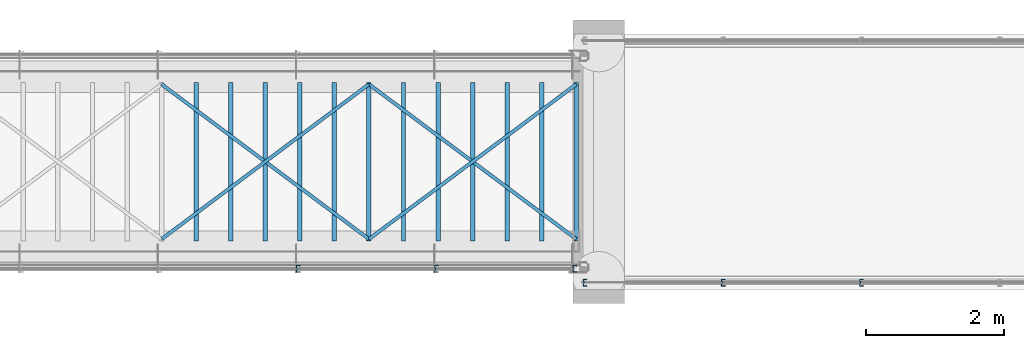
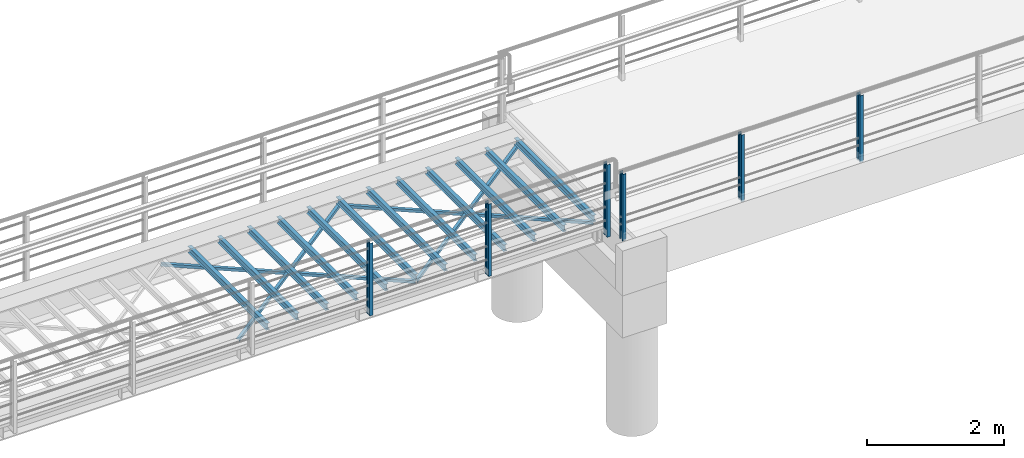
# One storey, part 12 of 31: 22 beams.
"""IFC2X3 building model written with IfcOpenShell, lengths in millimetres."""

from ifc_helpers import new_model, si_unit, frame, origin_with_axes, place, context, subcontext, project, spatial, faceted_brep, material, type_object, element, save


model = new_model("IFC2X3")

# Units and contexts
model_context = context("Model", 3, precision=1e-05, world=origin_with_axes())
body_context = subcontext(model_context, "Body", "Model", "MODEL_VIEW")
ifc_project = project(units=[si_unit("LENGTHUNIT", "METRE", prefix="MILLI"), si_unit("AREAUNIT", "SQUARE_METRE"), si_unit("VOLUMEUNIT", "CUBIC_METRE"), si_unit("MASSUNIT", "GRAM", prefix="KILO"), si_unit("TIMEUNIT", "SECOND"), si_unit("PLANEANGLEUNIT", "RADIAN"), si_unit("SOLIDANGLEUNIT", "STERADIAN"), si_unit("THERMODYNAMICTEMPERATUREUNIT", "DEGREE_CELSIUS"), si_unit("LUMINOUSINTENSITYUNIT", "LUMEN")], contexts=[model_context])

# Site, building, storey
site_placement = place(None, origin_with_axes())
site = spatial("IfcSite", under=ifc_project, at=site_placement, Name="Undefined", CompositionType="ELEMENT")
building_placement = place(site_placement, origin_with_axes())
building = spatial("IfcBuilding", under=site, at=building_placement, Name="Undefined", CompositionType="ELEMENT")
storey_placement = place(building_placement, origin_with_axes())
storey = spatial("IfcBuildingStorey", under=building, at=storey_placement, Name="Undefined", CompositionType="ELEMENT", Elevation=0.0)

# Beams
ifc_material = material(Name="STEEL/S355J2+N")
beam_type_1 = type_object("IfcBeamType", Name="IPE120", PredefinedType="NOTDEFINED")
for number, where, z_axis, x_axis in (
    (1, (14950.0, 5.75, -105.0), (0.0, 0.0, 1.0), (0.0, 1.0, 0.0)),
    (2, (15950.0, 5.75, -105.0), (0.0, 0.0, 1.0), (0.0, 1.0, 0.0)),
    (3, (19450.0, 5.75, -105.0), (0.0, 0.0, 1.0), (0.0, 1.0, 0.0)),
    (4, (18950.0, 5.75, -105.0), (0.0, 0.0, 1.0), (0.0, 1.0, 0.0)),
    (5, (18450.0, 5.75, -105.0), (0.0, 0.0, 1.0), (0.0, 1.0, 0.0)),
    (6, (17950.0, 5.75, -105.0), (0.0, 0.0, 1.0), (0.0, 1.0, 0.0)),
    (7, (17450.0, 5.75, -105.0), (0.0, 0.0, 1.0), (0.0, 1.0, 0.0)),
    (8, (16950.0, 5.75, -105.0), (0.0, 0.0, 1.0), (0.0, 1.0, 0.0)),
    (9, (16450.0, 5.75, -105.0), (0.0, 0.0, 1.0), (0.0, 1.0, 0.0)),
    (10, (15450.0, 5.75, -105.0), (0.0, 0.0, 1.0), (0.0, 1.0, 0.0)),
    (11, (14450.0, 5.75, -105.0), (0.0, 0.0, 1.0), (0.0, 1.0, 0.0)),
    (12, (13950.0, 5.75, -105.0), (0.0, 0.0, 1.0), (0.0, 1.0, 0.0)),
):
    element("IfcBeam", number, at=place(storey_placement, frame(where, z_axis=z_axis, x_axis=x_axis)), inside=storey, type_object=beam_type_1, material=ifc_material, Name="STÅLBJELKE", context=body_context, shape_type="Brep", body=[
        faceted_brep([(0.0, 32.0, -60.0), (0.0, 32.0, -53.699999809), (2288.5, 32.0, -53.699999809), (2288.5, 32.0, -60.0), (0.0, 2.2000000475, -53.699999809), (2288.5, 2.2000000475, -53.699999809), (0.0, 2.2000000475, 53.699999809), (2288.5, 2.2000000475, 53.699999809), (0.0, 32.0, 53.699999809), (2288.5, 32.0, 53.699999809), (0.0, 32.0, 60.0), (2288.5, 32.0, 60.0), (0.0, -32.0, 60.0), (2288.5, -32.0, 60.0), (0.0, -32.0, 53.699999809), (2288.5, -32.0, 53.699999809), (0.0, -2.2000000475, 53.699999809), (2288.5, -2.2000000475, 53.699999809), (0.0, -2.2000000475, -53.699999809), (2288.5, -2.2000000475, -53.699999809), (0.0, -32.0, -53.699999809), (2288.5, -32.0, -53.699999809), (0.0, -32.0, -60.0), (2288.5, -32.0, -60.0)], [[[0, 1, 2, 3]], [[1, 4, 5, 2]], [[4, 6, 7, 5]], [[6, 8, 9, 7]], [[8, 10, 11, 9]], [[10, 12, 13, 11]], [[12, 14, 15, 13]], [[14, 16, 17, 15]], [[16, 18, 19, 17]], [[18, 20, 21, 19]], [[20, 22, 23, 21]], [[22, 0, 3, 23]], [[5, 7, 9, 11, 13, 15, 17, 19, 21, 23, 3, 2]], [[22, 20, 18, 16, 14, 12, 10, 8, 6, 4, 1, 0]]]),
    ])
beam_type_2 = type_object("IfcBeamType", Name="CW100-5-10*55-10-30", PredefinedType="NOTDEFINED")
for number, where, z_axis, x_axis, name in (
    (13, (19577.5, -600.0, 1040.0), (0.0, 1.0, 0.0), (0.0, 0.0, -1.0), "BB-STOLPE"),
    (14, (21577.5, -600.0, 1040.0), (0.0, 1.0, 0.0), (0.0, 0.0, -1.0), "BB-STOLPE"),
    (15, (23577.5, -600.0, 1040.0), (0.0, 1.0, 0.0), (0.0, 0.0, -1.0), "BB-STOLPE"),
):
    element("IfcBeam", number, at=place(storey_placement, frame(where, z_axis=z_axis, x_axis=x_axis)), inside=storey, type_object=beam_type_2, material=ifc_material, Name=name, context=body_context, shape_type="Brep", body=[
        faceted_brep([(0.0, -27.5, -50.0), (0.0, 27.5, -50.0), (1190.0, 27.5, -50.0), (1190.0, -27.5, -50.0), (0.0, 27.5, -20.0), (1190.0, 27.5, -20.0), (0.0, 17.5, -10.0), (1190.0, 17.5, -10.0), (0.0, 17.5, 10.0), (1190.0, 17.5, 10.0), (0.0, 27.5, 20.0), (1190.0, 27.5, 20.0), (0.0, 27.5, 50.0), (1190.0, 27.5, 50.0), (0.0, -27.5, 50.0), (1190.0, -27.5, 50.0), (0.0, -27.5, 40.0), (1190.0, -27.5, 40.0), (0.0, -22.5, 40.0), (1190.0, -22.5, 40.0), (0.0, -22.5, 45.0), (1190.0, -22.5, 45.0), (0.0, 22.5, 45.0), (1190.0, 22.5, 45.0), (0.0, 22.5, 21.9149999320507), (1190.0, 22.5, 21.9149999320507), (0.0, 12.5, 11.9149999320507), (1190.0, 12.5, 11.9149999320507), (0.0, 12.5, -11.9149999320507), (1190.0, 12.5, -11.9149999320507), (0.0, 22.5, -21.9149999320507), (1190.0, 22.5, -21.9149999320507), (0.0, 22.5, -45.0), (1190.0, 22.5, -45.0), (0.0, -22.5, -45.0), (1190.0, -22.5, -45.0), (0.0, -22.5, -40.0), (1190.0, -22.5, -40.0), (0.0, -27.5, -40.0), (1190.0, -27.5, -40.0)], [[[0, 1, 2, 3]], [[1, 4, 5, 2]], [[4, 6, 7, 5]], [[6, 8, 9, 7]], [[8, 10, 11, 9]], [[10, 12, 13, 11]], [[12, 14, 15, 13]], [[14, 16, 17, 15]], [[16, 18, 19, 17]], [[18, 20, 21, 19]], [[20, 22, 23, 21]], [[22, 24, 25, 23]], [[24, 26, 27, 25]], [[26, 28, 29, 27]], [[28, 30, 31, 29]], [[30, 32, 33, 31]], [[32, 34, 35, 33]], [[34, 36, 37, 35]], [[36, 38, 39, 37]], [[38, 0, 3, 39]], [[5, 7, 9, 11, 13, 15, 17, 19, 21, 23, 25, 27, 29, 31, 33, 35, 37, 39, 3, 2]], [[38, 36, 34, 32, 30, 28, 26, 24, 22, 20, 18, 16, 14, 12, 10, 8, 6, 4, 1, 0]]]),
    ])
for number, where, z_axis, x_axis in (
    (16, (15427.5, -400.0, 1140.0), (0.0, 1.0, 0.0), (0.0, 0.0, -1.0)),
    (17, (17427.5, -400.0, 1140.0), (0.0, 1.0, 0.0), (0.0, 0.0, -1.0)),
    (18, (19427.5, -400.0, 1140.0), (0.0, 1.0, 0.0), (0.0, 0.0, -1.0)),
):
    element("IfcBeam", number, at=place(storey_placement, frame(where, z_axis=z_axis, x_axis=x_axis)), inside=storey, type_object=beam_type_2, material=ifc_material, Name="STOLPE", context=body_context, shape_type="Brep", body=[
        faceted_brep([(0.0, -27.5, -50.0), (0.0, 27.5, -50.0), (1290.0, 27.5, -50.0), (1290.0, -27.5, -50.0), (0.0, 27.5, -20.0), (1290.0, 27.5, -20.0), (0.0, 17.5, -10.0), (1290.0, 17.5, -10.0), (0.0, 17.5, 10.0), (1290.0, 17.5, 10.0), (0.0, 27.5, 20.0), (1290.0, 27.5, 20.0), (0.0, 27.5, 50.0), (1290.0, 27.5, 50.0), (0.0, -27.5, 50.0), (1290.0, -27.5, 50.0), (0.0, -27.5, 40.0), (1290.0, -27.5, 40.0), (0.0, -22.5, 40.0), (1290.0, -22.5, 40.0), (0.0, -22.5, 45.0), (1290.0, -22.5, 45.0), (0.0, 22.5, 45.0), (1290.0, 22.5, 45.0), (0.0, 22.5, 21.9149999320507), (1290.0, 22.5, 21.9149999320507), (0.0, 12.5, 11.9149999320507), (1290.0, 12.5, 11.9149999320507), (0.0, 12.5, -11.9149999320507), (1290.0, 12.5, -11.9149999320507), (0.0, 22.5, -21.9149999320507), (1290.0, 22.5, -21.9149999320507), (0.0, 22.5, -45.0), (1290.0, 22.5, -45.0), (0.0, -22.5, -45.0), (1290.0, -22.5, -45.0), (0.0, -22.5, -40.0), (1290.0, -22.5, -40.0), (0.0, -27.5, -40.0), (1290.0, -27.5, -40.0)], [[[0, 1, 2, 3]], [[1, 4, 5, 2]], [[4, 6, 7, 5]], [[6, 8, 9, 7]], [[8, 10, 11, 9]], [[10, 12, 13, 11]], [[12, 14, 15, 13]], [[14, 16, 17, 15]], [[16, 18, 19, 17]], [[18, 20, 21, 19]], [[20, 22, 23, 21]], [[22, 24, 25, 23]], [[24, 26, 27, 25]], [[26, 28, 29, 27]], [[28, 30, 31, 29]], [[30, 32, 33, 31]], [[32, 34, 35, 33]], [[34, 36, 37, 35]], [[36, 38, 39, 37]], [[38, 0, 3, 39]], [[5, 7, 9, 11, 13, 15, 17, 19, 21, 23, 25, 27, 29, 31, 33, 35, 37, 39, 3, 2]], [[38, 36, 34, 32, 30, 28, 26, 24, 22, 20, 18, 16, 14, 12, 10, 8, 6, 4, 1, 0]]]),
    ])
beam_type_3 = type_object("IfcBeamType", Name="L50*5", PredefinedType="NOTDEFINED")
for number, where, z_axis, x_axis in (
    (19, (13450.0, 2270.0, -190.0), (0.0, 0.0, -1.0), (0.801280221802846, -0.598289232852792, 0.0)),
    (20, (13450.0000010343, 29.9999986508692, -190.0), (0.0, 0.0, -1.0), (0.801280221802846, 0.598289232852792, 0.0)),
    (21, (16450.0, 2270.0, -190.0), (0.0, 0.0, -1.0), (0.801280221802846, -0.598289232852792, 0.0)),
    (22, (16450.0000010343, 29.9999986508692, -190.0), (0.0, 0.0, -1.0), (0.801280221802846, 0.598289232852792, 0.0)),
):
    element("IfcBeam", number, at=place(storey_placement, frame(where, z_axis=z_axis, x_axis=x_axis)), inside=storey, type_object=beam_type_3, material=ifc_material, Name="STÅLBJELKE", context=body_context, shape_type="Brep", body=[
        faceted_brep([(-1.81898940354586e-12, 24.9999999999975, -25.0), (-1.81898940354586e-12, 24.9999999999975, 25.0), (3744.00854697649, 25.0000000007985, 25.0), (3744.00854697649, 25.0000000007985, -25.0), (-1.36424205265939e-12, 19.999999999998, 25.0), (3744.00854697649, 20.0000000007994, 25.0), (-1.36424205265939e-12, 19.999999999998, -20.0), (3744.00854697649, 20.0000000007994, -20.0), (1.81898940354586e-12, -24.9999999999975, -20.0), (3744.0085469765, -24.9999999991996, -20.0), (1.81898940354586e-12, -24.9999999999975, -25.0), (3744.0085469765, -24.9999999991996, -25.0)], [[[0, 1, 2, 3]], [[1, 4, 5, 2]], [[4, 6, 7, 5]], [[6, 8, 9, 7]], [[8, 10, 11, 9]], [[10, 0, 3, 11]], [[5, 7, 9, 11, 3, 2]], [[10, 8, 6, 4, 1, 0]]]),
    ])

save(model, "model.ifc")
